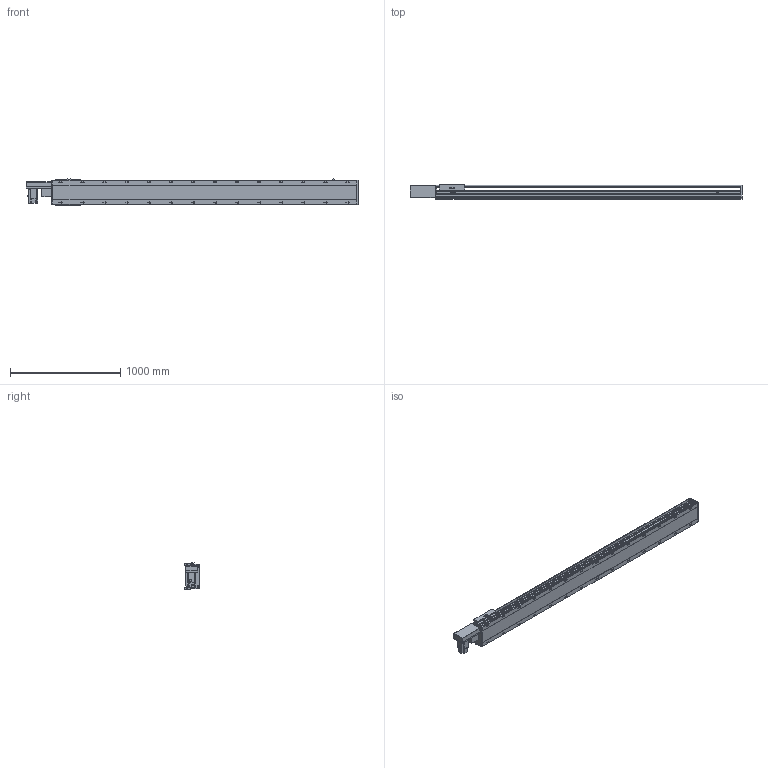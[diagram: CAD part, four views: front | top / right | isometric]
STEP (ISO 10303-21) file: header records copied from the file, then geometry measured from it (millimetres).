
FILE_DESCRIPTION(/* description */ ('STEP AP214'),/* implementation_level */ '2;1');
FILE_NAME(/* name */ 'PBS220-P40-S2400-R-T75-C1-N(0)',/* time_stamp */ '2022-06-11T10:02:59+02:00',/* author */ ('License CC BY-ND 4.0'),/* organization */ ('CADENAS'),/* preprocessor_version */ 'ST-DEVELOPER v18.102',/* originating_system */ 'PARTsolutions',/* authorisation */ ' ');
FILE_SCHEMA (('AUTOMOTIVE_DESIGN {1 0 10303 214 3 1 1}'));
Length unit declared in the file: millimetre
Products named in the file (7): PBS220-P40-S2400-R-T75-C1-N(0); PBS220_sensor; PBS220_plant; PBS220_sliser; T75-p1; PBS220T-R_motors; PBS220-S2400()_body
Assembly tree (8 placements, depth 2):
  PBS220-P40-S2400-R-T75-C1-N(0)
    PBS220_sensor  x3
    PBS220_plant
    PBS220_sliser
    T75-p1
    PBS220T-R_motors
    PBS220-S2400()_body
Bounding box: 3006 x 134 x 238.5 mm (x, y, z)
Volume: 40315955.4 mm3; surface area: 3703465 mm2
Topology: 8 solids, 8 shells, 986 faces, 2564 edges, 1666 vertices
Faces by surface type: plane 622, cylinder 312, cone 52
Full cylindrical faces by diameter (mm): 2.013 x4, 4.5 x14, 4.917 x4, 6 x7, 6.647 x8, 8 x10, 8.376 x28, 8.5 x28, 10 x6, 14 x28, 38 x2, 40 x1, 70 x1
Entity records: 27501 total; most frequent: CARTESIAN_POINT 4888, DIRECTION 4779, ORIENTED_EDGE 4322, EDGE_CURVE 2161, AXIS2_PLACEMENT_3D 1711, VERTEX_POINT 1512, LINE 1357, VECTOR 1357
